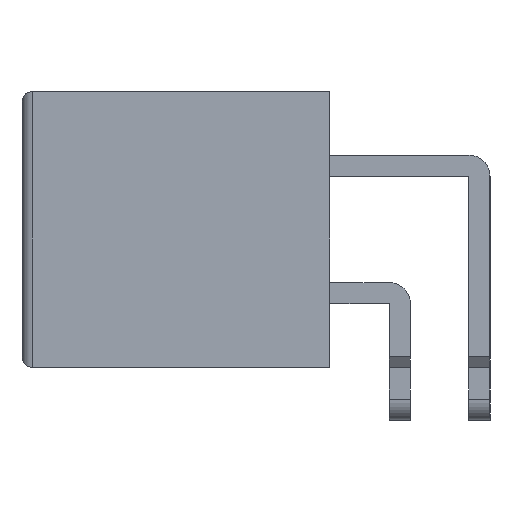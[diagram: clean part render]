
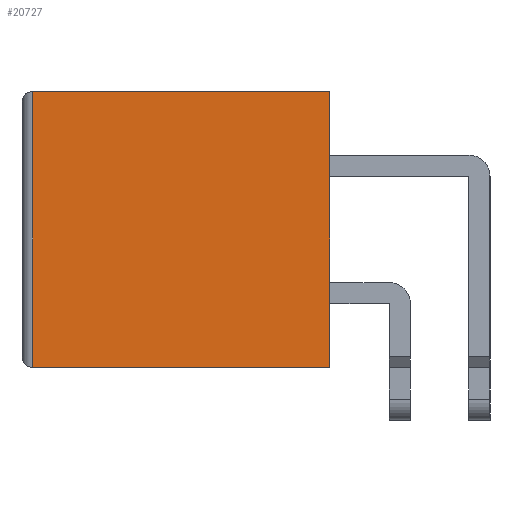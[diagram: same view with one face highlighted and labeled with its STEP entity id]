
A CAD part, left-side view. The second image highlights one B-rep face of the part: STEP entity #20727.
In plain terms, the highlighted planar face has unit normal (-1, 0, 0).
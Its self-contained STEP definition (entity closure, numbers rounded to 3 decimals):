
#2393=VERTEX_POINT('',#31422);
#2394=VERTEX_POINT('',#31426);
#2398=VERTEX_POINT('',#31438);
#2399=VERTEX_POINT('',#31440);
#4499=VECTOR('',#24415,1.);
#4503=VECTOR('',#24426,1.);
#4504=VECTOR('',#24427,1.);
#4505=VECTOR('',#24428,1.);
#6636=LINE('',#31425,#4499);
#6640=LINE('',#31437,#4503);
#6641=LINE('',#31439,#4504);
#6642=LINE('',#31441,#4505);
#9339=EDGE_CURVE('',#2394,#2393,#6636,.T.);
#9345=EDGE_CURVE('',#2394,#2398,#6640,.T.);
#9346=EDGE_CURVE('',#2398,#2399,#6641,.T.);
#9347=EDGE_CURVE('',#2399,#2393,#6642,.T.);
#14031=ORIENTED_EDGE('',*,*,#9339,.F.);
#14032=ORIENTED_EDGE('',*,*,#9345,.T.);
#14033=ORIENTED_EDGE('',*,*,#9346,.T.);
#14034=ORIENTED_EDGE('',*,*,#9347,.T.);
#18221=EDGE_LOOP('',(#14031,#14032,#14033,#14034));
#19495=FACE_BOUND('',#18221,.T.);
#20727=ADVANCED_FACE('',(#19495),#35094,.F.);
#21838=AXIS2_PLACEMENT_3D('',#31436,#24425,$);
#24415=DIRECTION('',(0.,0.,1.));
#24425=DIRECTION('',(1.,0.,0.));
#24426=DIRECTION('',(0.,-1.,0.));
#24427=DIRECTION('',(0.,0.,1.));
#24428=DIRECTION('',(0.,1.,0.));
#31422=CARTESIAN_POINT('',(0.,28.,0.));
#31425=CARTESIAN_POINT('',(0.,28.,-13.));
#31426=CARTESIAN_POINT('',(0.,28.,-26.));
#31436=CARTESIAN_POINT('',(0.,14.5,-13.));
#31437=CARTESIAN_POINT('',(0.,29.,-26.));
#31438=CARTESIAN_POINT('',(0.,0.,-26.));
#31439=CARTESIAN_POINT('',(0.,0.,-26.));
#31440=CARTESIAN_POINT('',(0.,0.,0.));
#31441=CARTESIAN_POINT('',(0.,0.,0.));
#35094=PLANE('',#21838);
